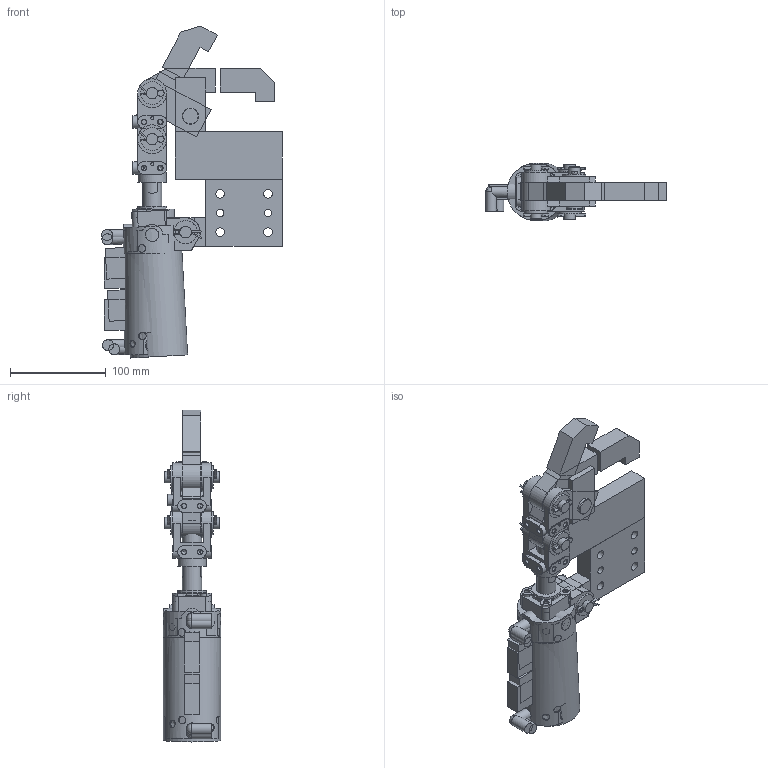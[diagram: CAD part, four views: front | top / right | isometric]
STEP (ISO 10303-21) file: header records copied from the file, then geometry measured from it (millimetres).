
FILE_DESCRIPTION( (''), '2;1');
FILE_NAME ('19LV5A402.stp','2022-11-28T19:04:49',(''),(''),'spGate 18.9.5 (****-****-****-****)','','');
FILE_SCHEMA (('AUTOMOTIVE_DESIGN'));
Length unit declared in the file: millimetre
Products named in the file (51): 19LV5A402; ROD; _PURCHASE_SELECTION; CYLINDER; UNCLAMP; CLAMP; FIXED; 901_CKG1B50-50YAZ-X1515-ROD; OLIES; MISUMI; 902_D-P4DW+903_BA8-050; 901_CKG1B50-50YAZ-X1515-BODY; 102_CLAMP; WASHER-M12; 904_GHCLGN12-33.5; 101_PLATE; 905_SPB-121816; 906_LFB-1215; 905_MPBZ12-16; 906_MDZB12-15; ARM; HINGE_PLATE; _NPN3.2-20; TEMP_X_T-prt28; MOUNTING; PIECE; HINGE_HOLE; CYL_FIXED_HOLE; GAUGE; TEMP_X_T-prt15; TEMP_X_T-prt16; TEMP_X_T-prt17; TEMP_X_T-prt18; TEMP_X_T-prt19
Assembly tree (50 placements, depth 5):
  19LV5A402
    ROD
      901_CKG1B50-50YAZ-X1515-ROD
    _PURCHASE_SELECTION
      OLIES
        905_SPB-121816
        906_LFB-1215
        906_LFB-1215
      MISUMI
        905_MPBZ12-16
        906_MDZB12-15
        906_MDZB12-15
    CYLINDER
      902_D-P4DW+903_BA8-050
      902_D-P4DW+903_BA8-050
      901_CKG1B50-50YAZ-X1515-BODY
    UNCLAMP
      ROD
        901_CKG1B50-50YAZ-X1515-ROD
      CLAMP
        102_CLAMP
          ARM
          HINGE_PLATE
          HINGE_PLATE
          ARM
      CYLINDER
        901_CKG1B50-50YAZ-X1515-BODY
          TEMP_X_T-prt15
          TEMP_X_T-prt16
          TEMP_X_T-prt17
          TEMP_X_T-prt18
          TEMP_X_T-prt19
        902_D-P4DW+903_BA8-050
        902_D-P4DW+903_BA8-050
    CLAMP
      102_CLAMP
        ARM
        HINGE_PLATE
        HINGE_PLATE
        ARM
    FIXED
      WASHER-M12
      904_GHCLGN12-33.5
        _NPN3.2-20
        TEMP_X_T-prt28
      101_PLATE
        MOUNTING
        PIECE
        HINGE_HOLE
        CYL_FIXED_HOLE
        GAUGE
Bounding box: 188.72 x 60 x 346.5 mm (x, y, z)
Volume: 1395704 mm3; surface area: 287466.7 mm2
Topology: 33 solids, 35 shells, 697 faces, 1802 edges, 1229 vertices
Faces by surface type: plane 419, cylinder 204, bspline 69, sphere 5
Full cylindrical faces by diameter (mm): 3 x4, 3.2 x1, 4.917 x12, 6 x4, 7.79 x4, 8 x8, 9 x4, 11.445 x2, 11.45 x8, 11.8 x1, 12 x22, 14 x7, 16 x2, 17 x1, 18 x3, 20 x3, 24 x7, 30 x8, 50 x3, 58 x1, 60 x2
Entity records: 39536 total; most frequent: CARTESIAN_POINT 7115, DIRECTION 3602, ORIENTED_EDGE 3558, COLOUR_RGB 2510, PRESENTATION_STYLE_ASSIGNMENT 2510, STYLED_ITEM 2510, DRAUGHTING_PRE_DEFINED_CURVE_FONT 1780, CURVE_STYLE 1780
